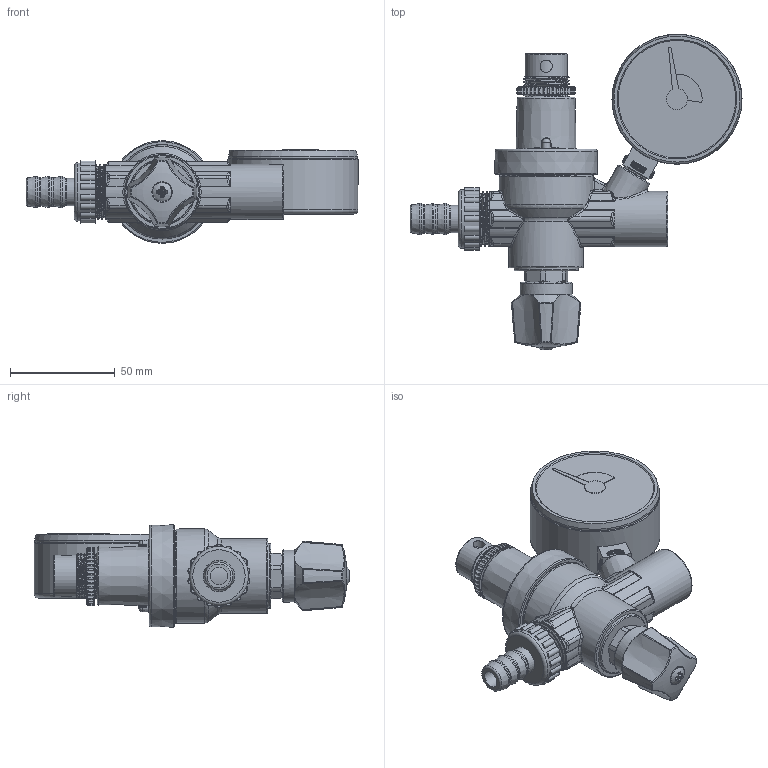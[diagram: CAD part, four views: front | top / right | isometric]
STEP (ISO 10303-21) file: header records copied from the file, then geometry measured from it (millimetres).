
FILE_DESCRIPTION(/* description */ (''),/* implementation_level */ '2;1');
FILE_NAME(/* name */ '42406',/* time_stamp */ '2022-03-29T17:58:27+02:00',/* author */ (''),/* organization */ (''),/* preprocessor_version */ 'ST-DEVELOPER v16.5',/* originating_system */ 'HiCAD 2021 2601.2 Build 407',/* authorisation */ '');
FILE_SCHEMA (('AUTOMOTIVE_DESIGN { 1 0 10303 214 1 1 1 1 }'));
Products named in the file (16): Root; 42406_Füllarmatur; Corpo1; Corpo3; Corpo4; 30 02 01 04_HZ63 0-4bar G1/4-PTFE rad KST_1*; ZEIGER; 30 00 630015_Deckglas mit HZ-Zeiger 1,5-3 bar; grünes feld; ROTER_ZEIGER_2; GEHAEUSE; Federträger_0; gewinde_0; ZIFFERNBLATT; ziffern
Assembly tree (15 placements, depth 5):
  Root
    Root
      42406_Füllarmatur
        Corpo1
        Corpo3
        Corpo4
      30 02 01 04_HZ63 0-4bar G1/4-PTFE rad KST_1*
        ZEIGER
        30 00 630015_Deckglas mit HZ-Zeiger 1,5-3 bar
          grünes feld
          ROTER_ZEIGER_2
        GEHAEUSE
        Federträger_0
          gewinde_0
        ZIFFERNBLATT
          ziffern
Bounding box: 158.27 x 150.49 x 48.98 mm (x, y, z)
Volume: 36399.7 mm3; surface area: 89752.3 mm2
Topology: 49 solids, 55 shells, 2219 faces, 5833 edges, 3765 vertices
Faces by surface type: cylinder 848, plane 806, bspline 298, torus 164, cone 57, sphere 46
Full cylindrical faces by diameter (mm): 2 x2, 2.2 x2, 3 x1, 3.553 x4, 4 x7, 4.408 x6, 5 x1, 5.8 x2, 6 x2, 6.42 x1, 6.9 x1, 8.246 x1, 8.7 x1, 9 x1, 9.2 x2, 9.338 x1, 10.4 x2, 10.5 x1, 10.78 x1, 11.445 x1, 11.866 x1, 12.18 x2, 13 x4, 13.157 x2, 13.4 x1, 13.6 x1, 16.6 x1, 17.4 x1, 17.8 x1, 18 x1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
Entity records: 157889 total; most frequent: CARTESIAN_POINT 65252, ORIENTED_EDGE 11276, PRESENTATION_STYLE_ASSIGNMENT 10847, OVER_RIDING_STYLED_ITEM 10797, DRAUGHTING_PRE_DEFINED_CURVE_FONT 10772, CURVE_STYLE 10772, DIRECTION 9291, EDGE_CURVE 5646
